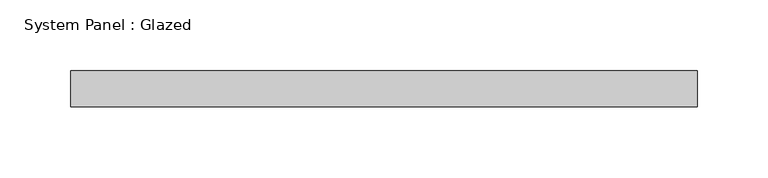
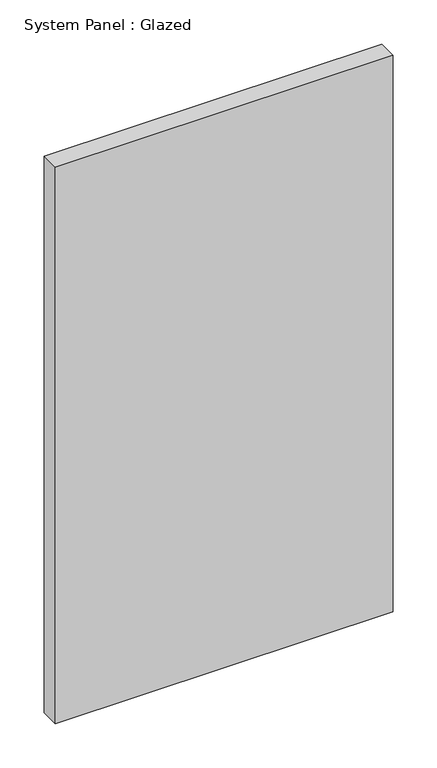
"""IFC4 building model written with IfcOpenShell, lengths in millimetres: plate geometry, System Panel : Glazed."""

from ifc_helpers import new_model, si_unit, origin, origin_with_axes, place, context, project, spatial, polyline, outline, extrude, source, transform, mapped, element, save


def system_panel_glazed_966251f3(model_context):
    return source(origin(), model_context, "Body", "SweptSolid", [
        extrude(outline(polyline([(221.3561983, -44.45), (-221.3561983, -44.45), (-221.3561983, -19.05), (221.3561983, -19.05), (221.3561983, -44.45)])), origin_with_axes(), (0.0, 0.0, 1.0), 770.6690025),
    ])


if __name__ == "__main__":
    model = new_model("IFC4")
    model_context = context("Model", 3, world=origin())
    ifc_project = project(units=[si_unit("LENGTHUNIT", "METRE", prefix="MILLI")], contexts=[model_context])
    site = spatial("IfcSite", under=ifc_project)
    building = spatial("IfcBuilding", under=site)
    placement = place(None, origin())
    system_panel_glazed_shape = system_panel_glazed_966251f3(model_context)
    element("IfcPlate", 1, ObjectType="System Panel : Glazed", at=placement, inside=building, context=model_context, shape_type="MappedRepresentation", body=[
        mapped(system_panel_glazed_shape, transform((0.0, 0.0, 0.0), x_axis=(1.0, 0.0, 0.0), y_axis=(0.0, 1.0, 0.0), z_axis=(0.0, 0.0, 1.0))),
    ])
    save(model, "model.ifc")
